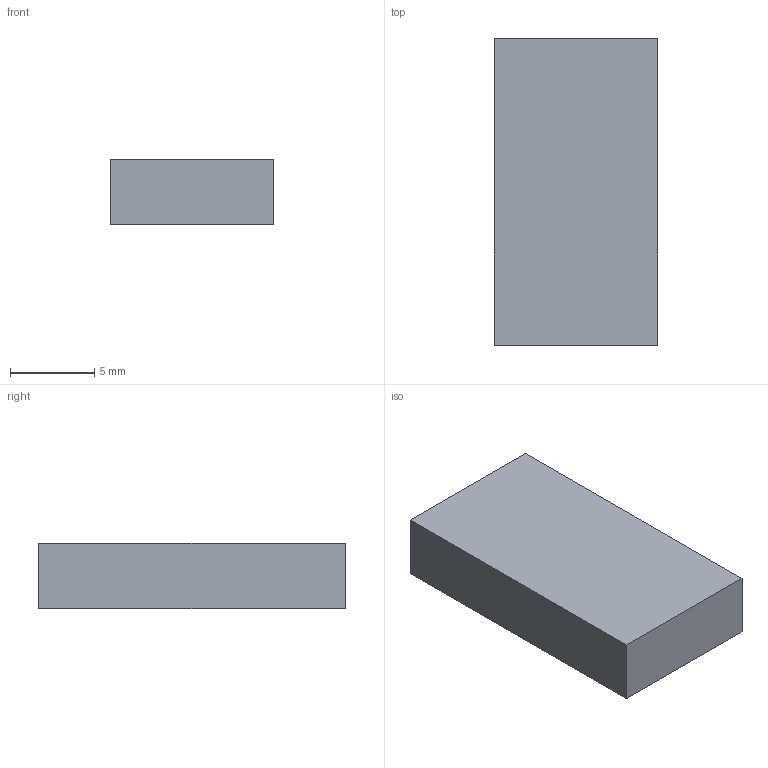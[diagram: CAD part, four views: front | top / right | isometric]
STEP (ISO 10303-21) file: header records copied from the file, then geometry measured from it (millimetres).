
FILE_DESCRIPTION((''),'2;1');
FILE_NAME('R:\Stock\3D pour clients\CELDUC references\UZ189538.stp','2012-07-02T11:39:11',('Georges THOLLOT ','Tl : +33 (0)4 77 53 90 27','gthollot@celduc.com'),('Celduc r e l a i s','5, rue Ampre, BP 30004','42290 SORBIERS - France','Fax. : +33 (0)4 77 53 85 51','N siret 353 310 519 00015','ISO 9001 N QUAL/1993/1106b','www.celduc.com'),'Autodesk Inventor 2010','Autodesk Inventor 2010','');
FILE_SCHEMA(('CONFIG_CONTROL_DESIGN'));
Length unit declared in the file: millimetre
Products named in the file (1): UZ189538
Bounding box: 9.7 x 18.2 x 3.9 mm (x, y, z)
Volume: 688.5 mm3; surface area: 570.7 mm2
Topology: 1 solids, 1 shells, 6 faces, 12 edges, 8 vertices
Faces by surface type: plane 6
Entity records: 190 total; most frequent: CARTESIAN_POINT 27, DIRECTION 26, ORIENTED_EDGE 24, VECTOR 12, LINE 12, EDGE_CURVE 12, VERTEX_POINT 8, AXIS2_PLACEMENT_3D 7
